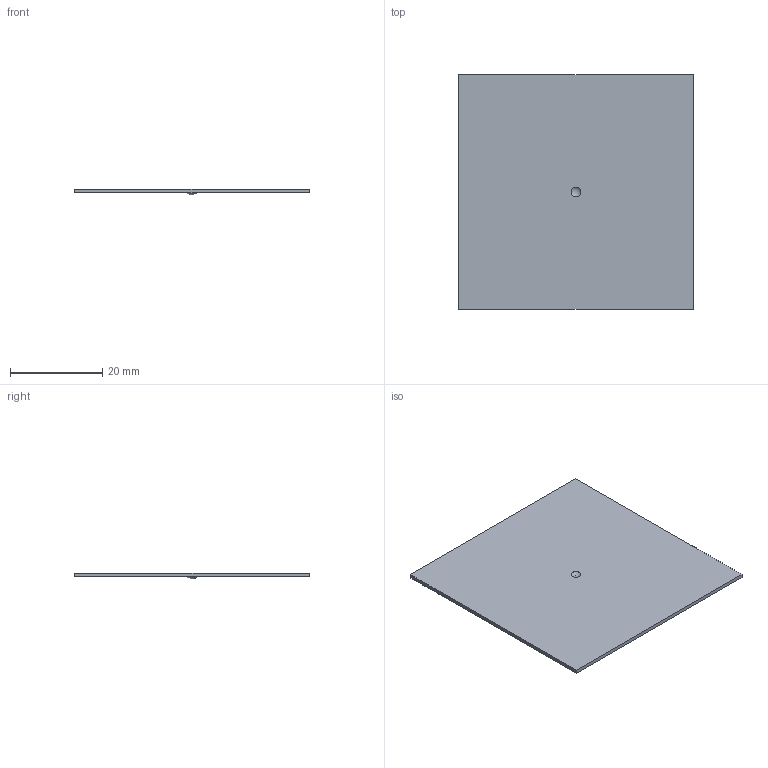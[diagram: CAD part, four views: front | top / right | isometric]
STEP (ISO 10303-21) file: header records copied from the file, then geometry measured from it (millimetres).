
FILE_DESCRIPTION(('PART XYZ REV A'),'1');
FILE_NAME('EF12','2012-03-29T22:41:52',('ERIC'),('TRIAX'),'Spatial Interop R21 SP3','Kubotek KeyCreator 2011 V10.5.0 (24766)','CHAZ');
FILE_SCHEMA(('CONFIG_CONTROL_DESIGN'));
Length unit declared in the file: inch
Products named in the file (1): 1
Bounding box: 50.8 x 50.8 x 1.19 mm (x, y, z)
Volume: 2097.9 mm3; surface area: 5327.4 mm2
Topology: 1 solids, 1 shells, 8 faces, 20 edges, 14 vertices
Faces by surface type: plane 6, sphere 2
Entity records: 240 total; most frequent: DIRECTION 34, CARTESIAN_POINT 33, ORIENTED_EDGE 28, EDGE_CURVE 14, LINE 12, VECTOR 12, AXIS2_PLACEMENT_3D 11, EDGE_LOOP 10
